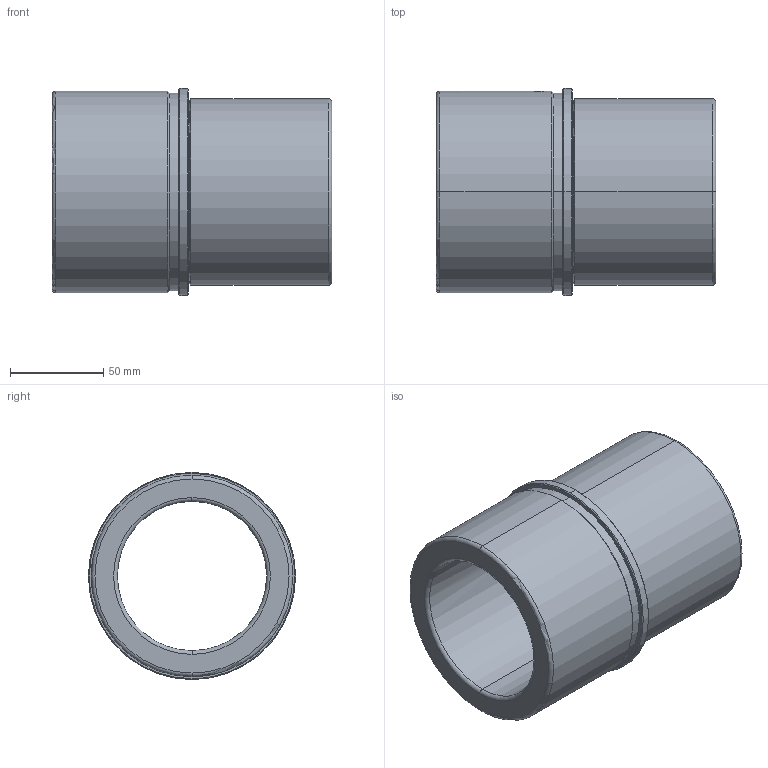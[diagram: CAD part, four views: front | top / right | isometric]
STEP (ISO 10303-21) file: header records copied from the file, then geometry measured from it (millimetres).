
FILE_DESCRIPTION(('CATIA V5 STEP Exchange'),'2;1');
FILE_NAME('C:\Users\Utente\Desktop\IO LAVORO\3D X SITO CF\X SITO\FAMO\FAMO-SF1-D80 x 150.stp','2021-01-06T17:04:15+00:00',('none'),('none'),'CATIA Version 5 Release 20 GA (IN-10)','CATIA V5 STEP AP203','none');
FILE_SCHEMA(('CONFIG_CONTROL_DESIGN'));
Length unit declared in the file: millimetre
Products named in the file (1): FAMO-SF1-D80 x 150
Bounding box: 150 x 111 x 111 mm (x, y, z)
Volume: 517512.1 mm3; surface area: 96382.3 mm2
Topology: 1 solids, 1 shells, 37 faces, 125 edges, 93 vertices
Faces by surface type: cylinder 14, cone 10, torus 8, plane 5
Entity records: 1655 total; most frequent: CARTESIAN_POINT 528, ORIENTED_EDGE 250, DIRECTION 180, EDGE_CURVE 125, AXIS2_PLACEMENT_3D 120, VERTEX_POINT 93, CIRCLE 82, EDGE_LOOP 44
